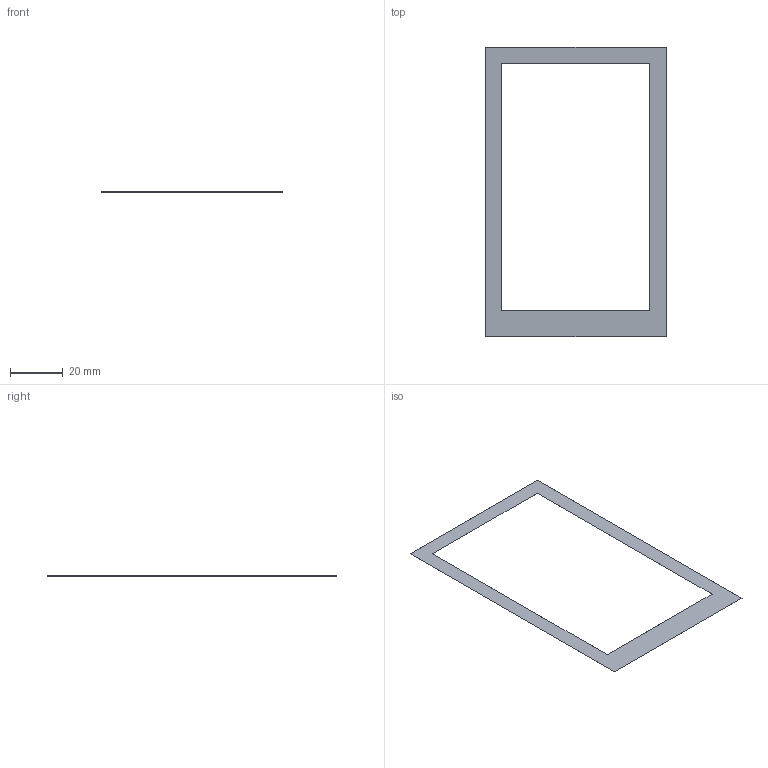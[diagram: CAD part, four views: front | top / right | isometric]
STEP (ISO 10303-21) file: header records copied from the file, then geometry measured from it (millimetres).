
FILE_DESCRIPTION(/* description */ ('STEP AP242 Edition 2','CAx-IF Rec.Pracs.---Representation and Presentation of Product Manufacturing Information (PMI)---4.0---2014-10-13','CAx-IF Rec.Pracs.---3D Tessellated Geometry---0.4---2014-09-14','2;1','CAx-IF Rec.Pracs.---User Defined Attributes---1.5---2016-08-15'),/* implementation_level */ '2;1');
FILE_NAME(/* name */ 'Assembly 1 - Part 3 (1)',/* time_stamp */ '2026-07-23T10:03:21Z',/* author */ (''),/* organization */ (''),/* preprocessor_version */ 'ST-DEVELOPER v20',/* originating_system */ 'ONSHAPE BY PTC INC, 1.218',/* authorisation */ ' ');
FILE_SCHEMA (('AP242_MANAGED_MODEL_BASED_3D_ENGINEERING_MIM_LF { 1 0 10303 442 3 1 4 }'));
Length unit declared in the file: metre
Products named in the file (1): Part 3
Bounding box: 68.3 x 109.5 x 0.01 mm (x, y, z)
Volume: 22.2 mm3; surface area: 4451.1 mm2
Topology: 1 solids, 1 shells, 10 faces, 24 edges, 16 vertices
Faces by surface type: plane 10
Entity records: 314 total; most frequent: CARTESIAN_POINT 51, ORIENTED_EDGE 48, DIRECTION 46, EDGE_CURVE 24, LINE 24, VECTOR 24, VERTEX_POINT 16, EDGE_LOOP 12
